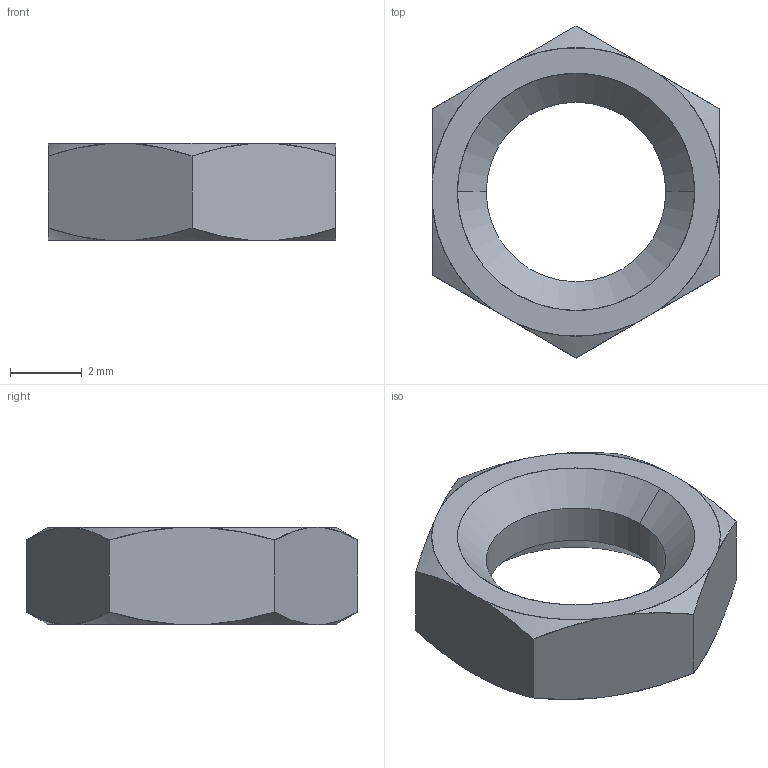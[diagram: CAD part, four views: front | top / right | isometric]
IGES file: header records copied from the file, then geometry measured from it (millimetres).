
Start section: SolidWorks IGES file using analytic representation for surfaces
Global section: file name: C:\Users\liam_\OneDrive\Desktop\Work\Mat Davis Pending 20181125\automotion\P SERIES\P0307.ZP_v2\P0307.ZP_v2_20181215_IGES\P0307.050-ZP.igs; native system: SolidWorks 2017; preprocessor: SolidWorks 2017; author: liam_; date: 181215.154822; units: millimetre
Bounding box: 8 x 9.24 x 2.7 mm (x, y, z)
Surface area: 171 mm2 (no closed solid volume)
Topology: 0 solids, 0 shells, 26 faces, 280 edges, 280 vertices
Faces by surface type: revolution 18, bspline 8
